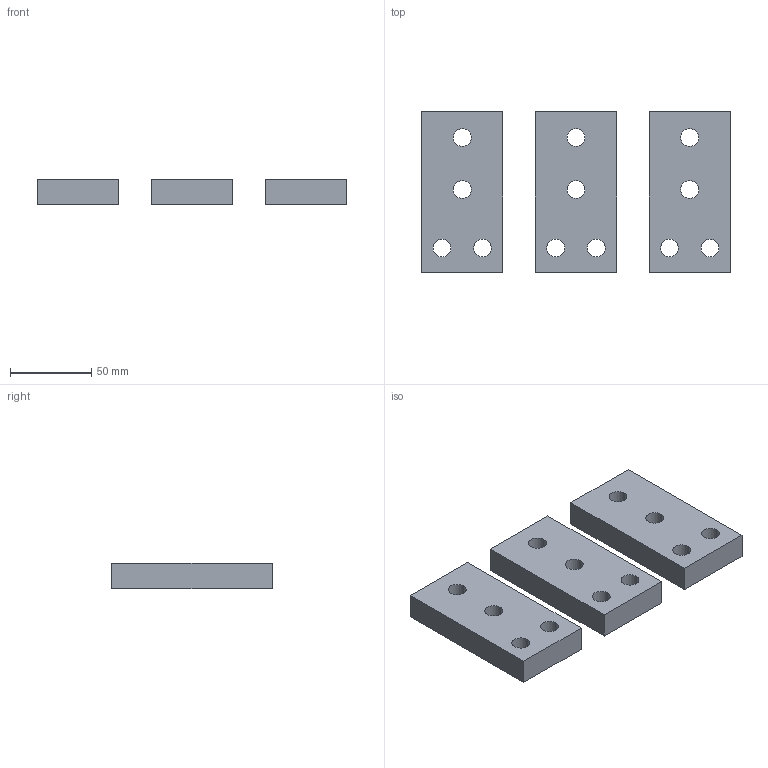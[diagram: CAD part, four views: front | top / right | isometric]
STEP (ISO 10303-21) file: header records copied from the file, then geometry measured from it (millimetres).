
FILE_DESCRIPTION (( 'STEP AP214' ), '1' );
FILE_NAME ('Óäëèíèòåëè ïîëþñîâ OptiMat D800, D1000, D1250, D1600 (âåðõíèå).STEP', '2023-04-03T03:33:28', ( '' ), ( '' ), 'SwSTEP 2.0', 'SolidWorks 2018', '' );
FILE_SCHEMA (( 'AUTOMOTIVE_DESIGN' ));
Length unit declared in the file: millimetre
Products named in the file (1): Óäëèíèòåëè ïîëþñîâ OptiMat D800, D1000, D1250, D1600 (âåðõíèå)
Bounding box: 190 x 99 x 16 mm (x, y, z)
Volume: 219353.6 mm3; surface area: 48358.2 mm2
Topology: 3 solids, 3 shells, 42 faces, 108 edges, 72 vertices
Faces by surface type: cylinder 24, plane 18
Entity records: 1400 total; most frequent: DIRECTION 242, CARTESIAN_POINT 223, ORIENTED_EDGE 216, EDGE_CURVE 108, AXIS2_PLACEMENT_3D 91, VERTEX_POINT 72, EDGE_LOOP 66, VECTOR 60
